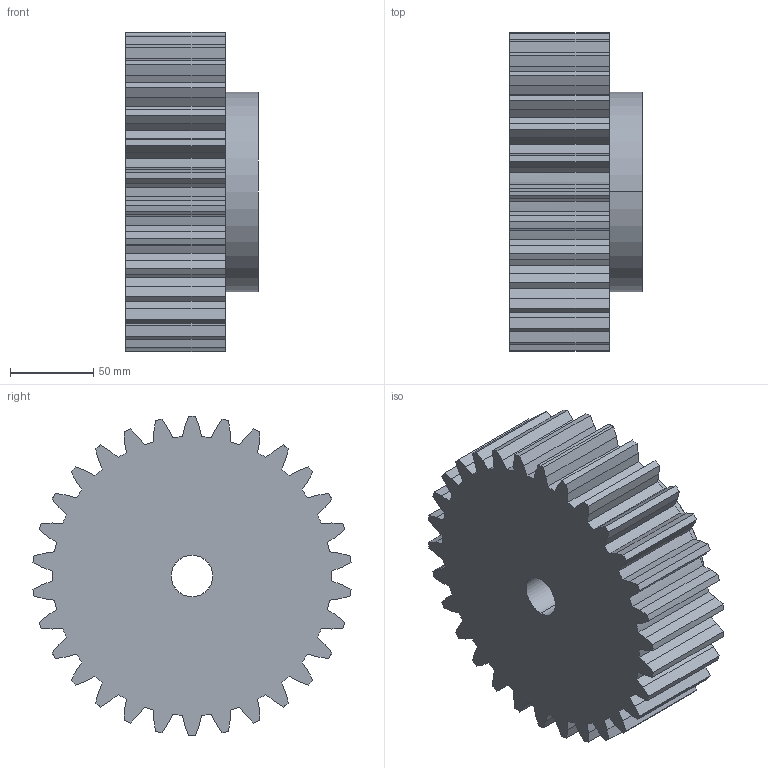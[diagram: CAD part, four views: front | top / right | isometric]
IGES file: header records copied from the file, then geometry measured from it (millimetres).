
Start section: SolidWorks IGES file using analytic representation for surfaces
Global section: file name: C:\Users\Honza\Desktop\Matis (Hotove)\Èelní ozubená kola\PM\MODUL 6\PM 34025.IGS; native system: SolidWorks 2010; preprocessor: SolidWorks 2010; author: Honza; date: 130926.100035; units: millimetre
Bounding box: 80 x 191.32 x 192 mm (x, y, z)
Surface area: 126981.7 mm2 (no closed solid volume)
Topology: 0 solids, 0 shells, 188 faces, 1296 edges, 1296 vertices
Faces by surface type: bspline 123, revolution 65
